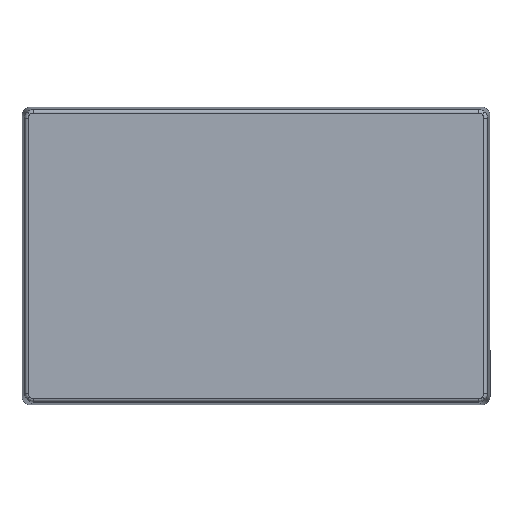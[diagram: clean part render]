
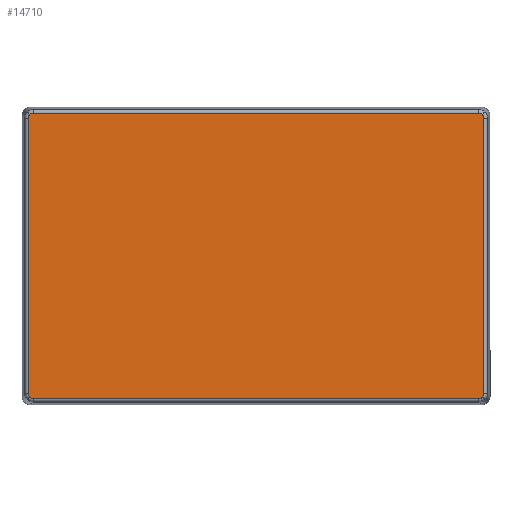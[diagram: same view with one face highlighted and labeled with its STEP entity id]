
A CAD part, top view. The second image highlights one B-rep face of the part: STEP entity #14710.
In plain terms, the highlighted planar face has unit normal (0, 0, 1).
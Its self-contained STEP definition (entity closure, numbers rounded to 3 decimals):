
#557=LINE('',#22172,#1663);
#558=LINE('',#22180,#1664);
#559=LINE('',#22188,#1665);
#560=LINE('',#22196,#1666);
#1663=VECTOR('',#16797,261.832);
#1664=VECTOR('',#16798,161.832);
#1665=VECTOR('',#16799,261.832);
#1666=VECTOR('',#16800,161.832);
#2679=PLANE('',#15637);
#2970=(
BOUNDED_CURVE()
B_SPLINE_CURVE(3,(#19819,#19820,#19821,#19822,#19823,#19824),
 .UNSPECIFIED.,.F.,.F.)
B_SPLINE_CURVE_WITH_KNOTS((4,2,4),(5.498,5.891,6.283),
 .UNSPECIFIED.)
CURVE()
GEOMETRIC_REPRESENTATION_ITEM()
RATIONAL_B_SPLINE_CURVE((1.,1.,1.,1.,1.,1.))
REPRESENTATION_ITEM('')
);
#2971=(
BOUNDED_CURVE()
B_SPLINE_CURVE(3,(#19856,#19857,#19858,#19859,#19860,#19861),
 .UNSPECIFIED.,.F.,.F.)
B_SPLINE_CURVE_WITH_KNOTS((4,2,4),(5.498,5.891,6.283),
 .UNSPECIFIED.)
CURVE()
GEOMETRIC_REPRESENTATION_ITEM()
RATIONAL_B_SPLINE_CURVE((1.,1.,1.,1.,1.,1.))
REPRESENTATION_ITEM('')
);
#2972=(
BOUNDED_CURVE()
B_SPLINE_CURVE(3,(#19893,#19894,#19895,#19896,#19897,#19898),
 .UNSPECIFIED.,.F.,.F.)
B_SPLINE_CURVE_WITH_KNOTS((4,2,4),(5.498,5.891,6.283),
 .UNSPECIFIED.)
CURVE()
GEOMETRIC_REPRESENTATION_ITEM()
RATIONAL_B_SPLINE_CURVE((1.,1.,1.,1.,1.,1.))
REPRESENTATION_ITEM('')
);
#2973=(
BOUNDED_CURVE()
B_SPLINE_CURVE(3,(#19930,#19931,#19932,#19933,#19934,#19935),
 .UNSPECIFIED.,.F.,.F.)
B_SPLINE_CURVE_WITH_KNOTS((4,2,4),(5.498,5.891,6.283),
 .UNSPECIFIED.)
CURVE()
GEOMETRIC_REPRESENTATION_ITEM()
RATIONAL_B_SPLINE_CURVE((1.,1.,1.,1.,1.,1.))
REPRESENTATION_ITEM('')
);
#2974=(
BOUNDED_CURVE()
B_SPLINE_CURVE(3,(#22174,#22175,#22176,#22177,#22178,#22179),
 .UNSPECIFIED.,.F.,.F.)
B_SPLINE_CURVE_WITH_KNOTS((4,2,4),(0.,0.393,
0.785),.UNSPECIFIED.)
CURVE()
GEOMETRIC_REPRESENTATION_ITEM()
RATIONAL_B_SPLINE_CURVE((1.,1.,1.,1.,1.,1.))
REPRESENTATION_ITEM('')
);
#2975=(
BOUNDED_CURVE()
B_SPLINE_CURVE(3,(#22182,#22183,#22184,#22185,#22186,#22187),
 .UNSPECIFIED.,.F.,.F.)
B_SPLINE_CURVE_WITH_KNOTS((4,2,4),(0.,0.393,
0.785),.UNSPECIFIED.)
CURVE()
GEOMETRIC_REPRESENTATION_ITEM()
RATIONAL_B_SPLINE_CURVE((1.,1.,1.,1.,1.,1.))
REPRESENTATION_ITEM('')
);
#2976=(
BOUNDED_CURVE()
B_SPLINE_CURVE(3,(#22190,#22191,#22192,#22193,#22194,#22195),
 .UNSPECIFIED.,.F.,.F.)
B_SPLINE_CURVE_WITH_KNOTS((4,2,4),(0.,0.393,
0.785),.UNSPECIFIED.)
CURVE()
GEOMETRIC_REPRESENTATION_ITEM()
RATIONAL_B_SPLINE_CURVE((1.,1.,1.,1.,1.,1.))
REPRESENTATION_ITEM('')
);
#2977=(
BOUNDED_CURVE()
B_SPLINE_CURVE(3,(#22197,#22198,#22199,#22200,#22201,#22202),
 .UNSPECIFIED.,.F.,.F.)
B_SPLINE_CURVE_WITH_KNOTS((4,2,4),(0.,0.393,
0.785),.UNSPECIFIED.)
CURVE()
GEOMETRIC_REPRESENTATION_ITEM()
RATIONAL_B_SPLINE_CURVE((1.,1.,1.,1.,1.,1.))
REPRESENTATION_ITEM('')
);
#3961=FACE_OUTER_BOUND('',#4881,.T.);
#4881=EDGE_LOOP('',(#10334,#10335,#10336,#10337,#10338,#10339,#10340,#10341,
#10342,#10343,#10344,#10345));
#6298=VERTEX_POINT('',#19816);
#6299=VERTEX_POINT('',#19818);
#6302=VERTEX_POINT('',#19853);
#6303=VERTEX_POINT('',#19855);
#6306=VERTEX_POINT('',#19890);
#6307=VERTEX_POINT('',#19892);
#6310=VERTEX_POINT('',#19927);
#6311=VERTEX_POINT('',#19929);
#6548=VERTEX_POINT('',#22171);
#6549=VERTEX_POINT('',#22173);
#6550=VERTEX_POINT('',#22181);
#6551=VERTEX_POINT('',#22189);
#7795=EDGE_CURVE('',#6299,#6298,#2970,.T.);
#7799=EDGE_CURVE('',#6303,#6302,#2971,.T.);
#7803=EDGE_CURVE('',#6307,#6306,#2972,.T.);
#7807=EDGE_CURVE('',#6311,#6310,#2973,.T.);
#8049=EDGE_CURVE('',#6548,#6299,#557,.T.);
#8050=EDGE_CURVE('',#6298,#6549,#2974,.T.);
#8051=EDGE_CURVE('',#6549,#6303,#558,.T.);
#8052=EDGE_CURVE('',#6302,#6550,#2975,.T.);
#8053=EDGE_CURVE('',#6550,#6311,#559,.T.);
#8054=EDGE_CURVE('',#6310,#6551,#2976,.T.);
#8055=EDGE_CURVE('',#6551,#6307,#560,.T.);
#8056=EDGE_CURVE('',#6306,#6548,#2977,.T.);
#10334=ORIENTED_EDGE('',*,*,#8049,.T.);
#10335=ORIENTED_EDGE('',*,*,#7795,.T.);
#10336=ORIENTED_EDGE('',*,*,#8050,.T.);
#10337=ORIENTED_EDGE('',*,*,#8051,.T.);
#10338=ORIENTED_EDGE('',*,*,#7799,.T.);
#10339=ORIENTED_EDGE('',*,*,#8052,.T.);
#10340=ORIENTED_EDGE('',*,*,#8053,.T.);
#10341=ORIENTED_EDGE('',*,*,#7807,.T.);
#10342=ORIENTED_EDGE('',*,*,#8054,.T.);
#10343=ORIENTED_EDGE('',*,*,#8055,.T.);
#10344=ORIENTED_EDGE('',*,*,#7803,.T.);
#10345=ORIENTED_EDGE('',*,*,#8056,.T.);
#14710=ADVANCED_FACE('',(#3961),#2679,.T.);
#15637=AXIS2_PLACEMENT_3D('',#22170,#16795,#16796);
#16795=DIRECTION('center_axis',(0.,0.,1.));
#16796=DIRECTION('ref_axis',(1.,0.,0.));
#16797=DIRECTION('',(-1.,0.,0.));
#16798=DIRECTION('',(0.,-1.,0.));
#16799=DIRECTION('',(1.,0.,0.));
#16800=DIRECTION('',(0.,1.,0.));
#19816=CARTESIAN_POINT('',(-133.037,83.037,62.5));
#19818=CARTESIAN_POINT('',(-130.916,83.915,62.5));
#19819=CARTESIAN_POINT('Ctrl Pts',(-130.916,83.915,62.5));
#19820=CARTESIAN_POINT('Ctrl Pts',(-131.309,83.915,62.5));
#19821=CARTESIAN_POINT('Ctrl Pts',(-131.701,83.837,62.5));
#19822=CARTESIAN_POINT('Ctrl Pts',(-132.427,83.537,62.5));
#19823=CARTESIAN_POINT('Ctrl Pts',(-132.759,83.314,62.5));
#19824=CARTESIAN_POINT('Ctrl Pts',(-133.037,83.037,62.5));
#19853=CARTESIAN_POINT('',(-133.037,-83.037,62.5));
#19855=CARTESIAN_POINT('',(-133.915,-80.916,62.5));
#19856=CARTESIAN_POINT('Ctrl Pts',(-133.915,-80.916,
62.5));
#19857=CARTESIAN_POINT('Ctrl Pts',(-133.915,-81.309,
62.5));
#19858=CARTESIAN_POINT('Ctrl Pts',(-133.837,-81.701,
62.5));
#19859=CARTESIAN_POINT('Ctrl Pts',(-133.537,-82.427,
62.5));
#19860=CARTESIAN_POINT('Ctrl Pts',(-133.314,-82.759,
62.5));
#19861=CARTESIAN_POINT('Ctrl Pts',(-133.037,-83.037,62.5));
#19890=CARTESIAN_POINT('',(133.037,83.037,62.5));
#19892=CARTESIAN_POINT('',(133.915,80.916,62.5));
#19893=CARTESIAN_POINT('Ctrl Pts',(133.915,80.916,62.5));
#19894=CARTESIAN_POINT('Ctrl Pts',(133.915,81.309,62.5));
#19895=CARTESIAN_POINT('Ctrl Pts',(133.837,81.701,62.5));
#19896=CARTESIAN_POINT('Ctrl Pts',(133.537,82.427,62.5));
#19897=CARTESIAN_POINT('Ctrl Pts',(133.314,82.759,62.5));
#19898=CARTESIAN_POINT('Ctrl Pts',(133.037,83.037,62.5));
#19927=CARTESIAN_POINT('',(133.037,-83.037,62.5));
#19929=CARTESIAN_POINT('',(130.916,-83.915,62.5));
#19930=CARTESIAN_POINT('Ctrl Pts',(130.916,-83.915,62.5));
#19931=CARTESIAN_POINT('Ctrl Pts',(131.309,-83.915,62.5));
#19932=CARTESIAN_POINT('Ctrl Pts',(131.701,-83.837,62.5));
#19933=CARTESIAN_POINT('Ctrl Pts',(132.427,-83.537,62.5));
#19934=CARTESIAN_POINT('Ctrl Pts',(132.759,-83.314,62.5));
#19935=CARTESIAN_POINT('Ctrl Pts',(133.037,-83.037,62.5));
#22170=CARTESIAN_POINT('Origin',(-137.5,-87.5,62.5));
#22171=CARTESIAN_POINT('',(130.916,83.915,62.5));
#22172=CARTESIAN_POINT('',(130.916,83.915,62.5));
#22173=CARTESIAN_POINT('',(-133.915,80.916,62.5));
#22174=CARTESIAN_POINT('Ctrl Pts',(-133.037,83.037,62.5));
#22175=CARTESIAN_POINT('Ctrl Pts',(-133.314,82.759,62.5));
#22176=CARTESIAN_POINT('Ctrl Pts',(-133.537,82.427,62.5));
#22177=CARTESIAN_POINT('Ctrl Pts',(-133.837,81.701,62.5));
#22178=CARTESIAN_POINT('Ctrl Pts',(-133.915,81.309,62.5));
#22179=CARTESIAN_POINT('Ctrl Pts',(-133.915,80.916,62.5));
#22180=CARTESIAN_POINT('',(-133.915,80.916,62.5));
#22181=CARTESIAN_POINT('',(-130.916,-83.915,62.5));
#22182=CARTESIAN_POINT('Ctrl Pts',(-133.037,-83.037,62.5));
#22183=CARTESIAN_POINT('Ctrl Pts',(-132.759,-83.314,
62.5));
#22184=CARTESIAN_POINT('Ctrl Pts',(-132.427,-83.537,62.5));
#22185=CARTESIAN_POINT('Ctrl Pts',(-131.701,-83.837,
62.5));
#22186=CARTESIAN_POINT('Ctrl Pts',(-131.309,-83.915,
62.5));
#22187=CARTESIAN_POINT('Ctrl Pts',(-130.916,-83.915,
62.5));
#22188=CARTESIAN_POINT('',(-130.916,-83.915,62.5));
#22189=CARTESIAN_POINT('',(133.915,-80.916,62.5));
#22190=CARTESIAN_POINT('Ctrl Pts',(133.037,-83.037,62.5));
#22191=CARTESIAN_POINT('Ctrl Pts',(133.314,-82.759,62.5));
#22192=CARTESIAN_POINT('Ctrl Pts',(133.537,-82.427,62.5));
#22193=CARTESIAN_POINT('Ctrl Pts',(133.837,-81.701,62.5));
#22194=CARTESIAN_POINT('Ctrl Pts',(133.915,-81.309,62.5));
#22195=CARTESIAN_POINT('Ctrl Pts',(133.915,-80.916,62.5));
#22196=CARTESIAN_POINT('',(133.915,-80.916,62.5));
#22197=CARTESIAN_POINT('Ctrl Pts',(133.037,83.037,62.5));
#22198=CARTESIAN_POINT('Ctrl Pts',(132.759,83.314,62.5));
#22199=CARTESIAN_POINT('Ctrl Pts',(132.427,83.537,62.5));
#22200=CARTESIAN_POINT('Ctrl Pts',(131.701,83.837,62.5));
#22201=CARTESIAN_POINT('Ctrl Pts',(131.309,83.915,62.5));
#22202=CARTESIAN_POINT('Ctrl Pts',(130.916,83.915,62.5));
